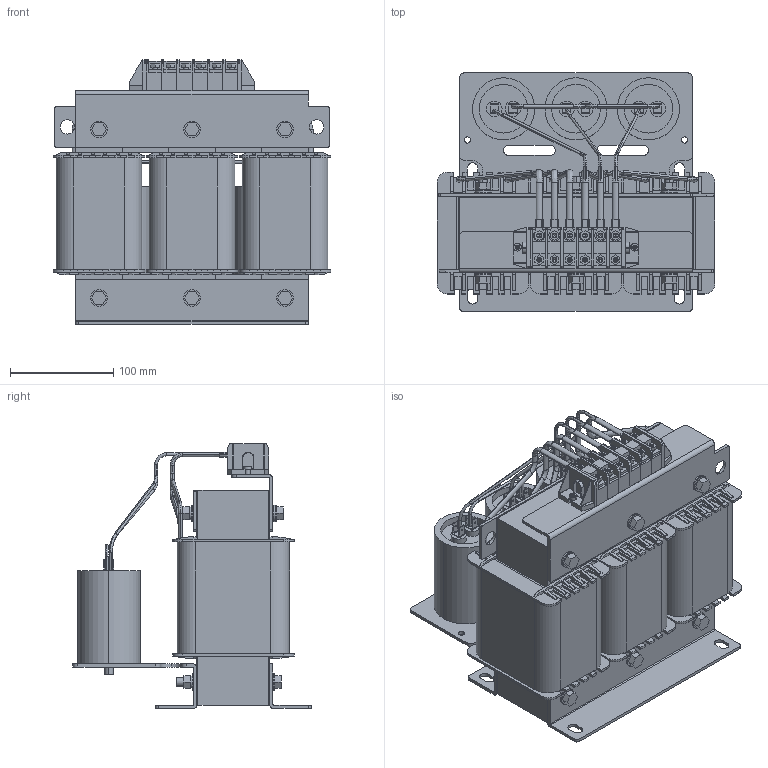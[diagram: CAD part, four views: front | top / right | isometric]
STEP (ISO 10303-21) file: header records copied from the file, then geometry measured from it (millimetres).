
FILE_DESCRIPTION (( 'STEP AP203' ), '1' );
FILE_NAME ('蔓躅漤铋 耔眢耥 翳朦蝠 _ ISINOF-18.5_39-4.STEP', '2026-07-17T07:19:22', ( '' ), ( '' ), 'SwSTEP 2.0', 'SolidWorks 2021', '' );
FILE_SCHEMA (( 'CONFIG_CONTROL_DESIGN' ));
Length unit declared in the file: millimetre
Products named in the file (166): 18.5KW滤波电抗器380V50Hz_144; 18.5KW滤波电抗器380V50Hz_66; 18.5KW滤波电抗器380V50Hz_33; 18.5KW滤波电抗器380V50Hz_61; 18.5KW滤波电抗器380V50Hz_71; 18.5KW滤波电抗器380V50Hz_105; 18.5KW滤波电抗器380V50Hz_51; 18.5KW滤波电抗器380V50Hz_134; 18.5KW滤波电抗器380V50Hz_74; 18.5KW滤波电抗器380V50Hz_88; 18.5KW滤波电抗器380V50Hz_148; 18.5KW滤波电抗器380V50Hz_2; 18.5KW滤波电抗器380V50Hz_37; 18.5KW滤波电抗器380V50Hz_153; 18.5KW滤波电抗器380V50Hz_160; 18.5KW滤波电抗器380V50Hz; 18.5KW滤波电抗器380V50Hz_85; 18.5KW滤波电抗器380V50Hz_96; 18.5KW滤波电抗器380V50Hz_95; 18.5KW滤波电抗器380V50Hz_69; 18.5KW滤波电抗器380V50Hz_49; 18.5KW滤波电抗器380V50Hz_42; 18.5KW滤波电抗器380V50Hz_132; 18.5KW滤波电抗器380V50Hz_118; 18.5KW滤波电抗器380V50Hz_155; 18.5KW滤波电抗器380V50Hz_25; 18.5KW滤波电抗器380V50Hz_113; 18.5KW滤波电抗器380V50Hz_40; 18.5KW滤波电抗器380V50Hz_83; 18.5KW滤波电抗器380V50Hz_32; 18.5KW滤波电抗器380V50Hz_97; 18.5KW滤波电抗器380V50Hz_26; 18.5KW滤波电抗器380V50Hz_4; 18.5KW滤波电抗器380V50Hz_48; 18.5KW滤波电抗器380V50Hz_81; 18.5KW滤波电抗器380V50Hz_54; 18.5KW滤波电抗器380V50Hz_99; 18.5KW滤波电抗器380V50Hz_90; 18.5KW滤波电抗器380V50Hz_101; 18.5KW滤波电抗器380V50Hz_142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
Assembly tree (165 placements, depth 2):
  蔓躅漤铋 耔眢耥 翳朦蝠 _ ISINOF-18.5_39-4
    18.5KW滤波电抗器380V50Hz_78
    18.5KW滤波电抗器380V50Hz_45
    18.5KW滤波电抗器380V50Hz_81
    18.5KW滤波电抗器380V50Hz_119
    18.5KW滤波电抗器380V50Hz_144
    18.5KW滤波电抗器380V50Hz_61
    18.5KW滤波电抗器380V50Hz_50
    18.5KW滤波电抗器380V50Hz_125
    18.5KW滤波电抗器380V50Hz_27
    18.5KW滤波电抗器380V50Hz_26
    18.5KW滤波电抗器380V50Hz_65
    18.5KW滤波电抗器380V50Hz_42
    18.5KW滤波电抗器380V50Hz_138
    18.5KW滤波电抗器380V50Hz_155
    18.5KW滤波电抗器380V50Hz_130
    18.5KW滤波电抗器380V50Hz_5
    18.5KW滤波电抗器380V50Hz_147
    18.5KW滤波电抗器380V50Hz_97
    18.5KW滤波电抗器380V50Hz_15
    18.5KW滤波电抗器380V50Hz_66
    18.5KW滤波电抗器380V50Hz_112
    18.5KW滤波电抗器380V50Hz_136
    18.5KW滤波电抗器380V50Hz_93
    18.5KW滤波电抗器380V50Hz_74
    18.5KW滤波电抗器380V50Hz_58
    18.5KW滤波电抗器380V50Hz_79
    18.5KW滤波电抗器380V50Hz_85
    18.5KW滤波电抗器380V50Hz_102
    18.5KW滤波电抗器380V50Hz_87
    18.5KW滤波电抗器380V50Hz_84
    18.5KW滤波电抗器380V50Hz_13
    18.5KW滤波电抗器380V50Hz_90
    18.5KW滤波电抗器380V50Hz_6
    18.5KW滤波电抗器380V50Hz_110
    18.5KW滤波电抗器380V50Hz_89
    18.5KW滤波电抗器380V50Hz_40
    18.5KW滤波电抗器380V50Hz_160
    18.5KW滤波电抗器380V50Hz_118
    18.5KW滤波电抗器380V50Hz_23
    18.5KW滤波电抗器380V50Hz_146
    18.5KW滤波电抗器380V50Hz_122
    18.5KW滤波电抗器380V50Hz_142
    18.5KW滤波电抗器380V50Hz_20
    18.5KW滤波电抗器380V50Hz_96
    18.5KW滤波电抗器380V50Hz_91
    18.5KW滤波电抗器380V50Hz_77
    18.5KW滤波电抗器380V50Hz_4
    18.5KW滤波电抗器380V50Hz_54
    18.5KW滤波电抗器380V50Hz_145
    18.5KW滤波电抗器380V50Hz_38
    18.5KW滤波电抗器380V50Hz_48
    18.5KW滤波电抗器380V50Hz_152
    18.5KW滤波电抗器380V50Hz_163
    18.5KW滤波电抗器380V50Hz_53
    18.5KW滤波电抗器380V50Hz_105
    18.5KW滤波电抗器380V50Hz_14
    18.5KW滤波电抗器380V50Hz_44
    18.5KW滤波电抗器380V50Hz_133
    18.5KW滤波电抗器380V50Hz_29
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Bounding box: 268.7 x 230.5 x 256 mm (x, y, z)
Volume: 5567402.2 mm3; surface area: 1157484.1 mm2
Topology: 165 solids, 165 shells, 2468 faces, 6185 edges, 4081 vertices
Faces by surface type: plane 1870, cylinder 460, bspline 84, cone 28, torus 26
Entity records: 94070 total; most frequent: CARTESIAN_POINT 16886, ORIENTED_EDGE 12370, DIRECTION 11914, EDGE_CURVE 6185, VECTOR 4954, LINE 4954, VERTEX_POINT 4081, AXIS2_PLACEMENT_3D 3480
